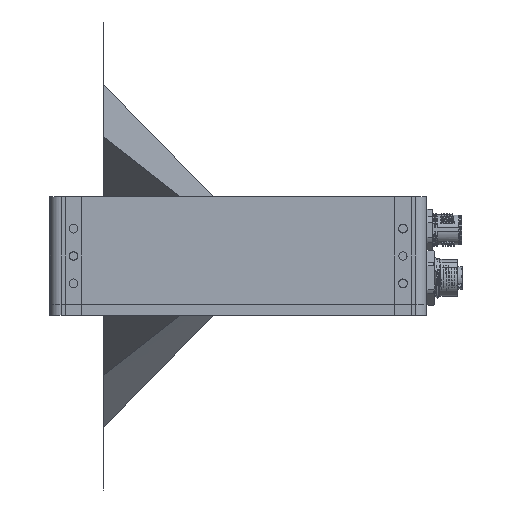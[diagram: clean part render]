
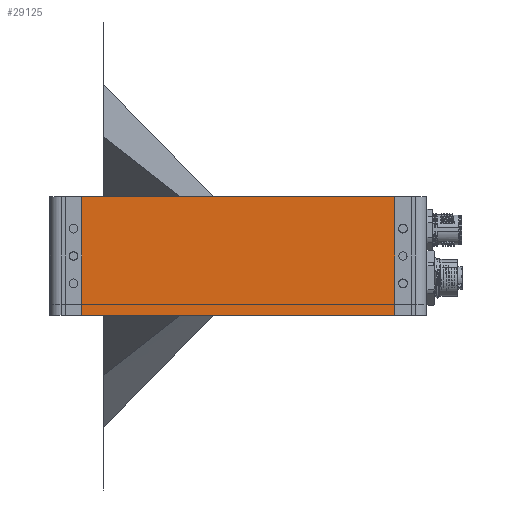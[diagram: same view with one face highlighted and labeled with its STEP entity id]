
A CAD part, front view. The second image highlights one B-rep face of the part: STEP entity #29125.
In plain terms, the highlighted planar face has unit normal (0, -1, 0).
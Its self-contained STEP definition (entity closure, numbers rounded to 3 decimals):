
#3682=LINE('',#84739,#5841);
#3779=LINE('',#85057,#5938);
#3780=LINE('',#85060,#5939);
#3781=LINE('',#85061,#5940);
#5841=VECTOR('',#39036,10.);
#5938=VECTOR('',#39407,10.);
#5939=VECTOR('',#39410,10.);
#5940=VECTOR('',#39411,10.);
#8297=FACE_OUTER_BOUND('',#10237,.T.);
#10237=EDGE_LOOP('',(#25724,#25725,#25726,#25727));
#14164=VERTEX_POINT('',#84736);
#14165=VERTEX_POINT('',#84738);
#14249=VERTEX_POINT('',#85055);
#14250=VERTEX_POINT('',#85059);
#17999=EDGE_CURVE('',#14164,#14165,#3682,.T.);
#18148=EDGE_CURVE('',#14164,#14249,#3779,.T.);
#18149=EDGE_CURVE('',#14250,#14249,#3780,.T.);
#18150=EDGE_CURVE('',#14165,#14250,#3781,.T.);
#25724=ORIENTED_EDGE('',*,*,#17999,.F.);
#25725=ORIENTED_EDGE('',*,*,#18148,.T.);
#25726=ORIENTED_EDGE('',*,*,#18149,.F.);
#25727=ORIENTED_EDGE('',*,*,#18150,.F.);
#27556=PLANE('',#32153);
#29125=ADVANCED_FACE('',(#8297),#27556,.T.);
#32153=AXIS2_PLACEMENT_3D('',#85058,#39408,#39409);
#39036=DIRECTION('',(1.,0.,0.));
#39407=DIRECTION('',(0.,0.,-1.));
#39408=DIRECTION('center_axis',(0.,-1.,0.));
#39409=DIRECTION('ref_axis',(-1.,0.,0.));
#39410=DIRECTION('',(-1.,0.,0.));
#39411=DIRECTION('',(0.,0.,-1.));
#84736=CARTESIAN_POINT('',(11.5,0.,0.));
#84738=CARTESIAN_POINT('',(125.5,0.,0.));
#84739=CARTESIAN_POINT('',(11.5,0.,0.));
#85055=CARTESIAN_POINT('',(11.5,0.,-43.));
#85057=CARTESIAN_POINT('',(11.5,0.,0.));
#85058=CARTESIAN_POINT('Origin',(125.5,0.,0.));
#85059=CARTESIAN_POINT('',(125.5,0.,-43.));
#85060=CARTESIAN_POINT('',(11.5,0.,-43.));
#85061=CARTESIAN_POINT('',(125.5,0.,0.));
